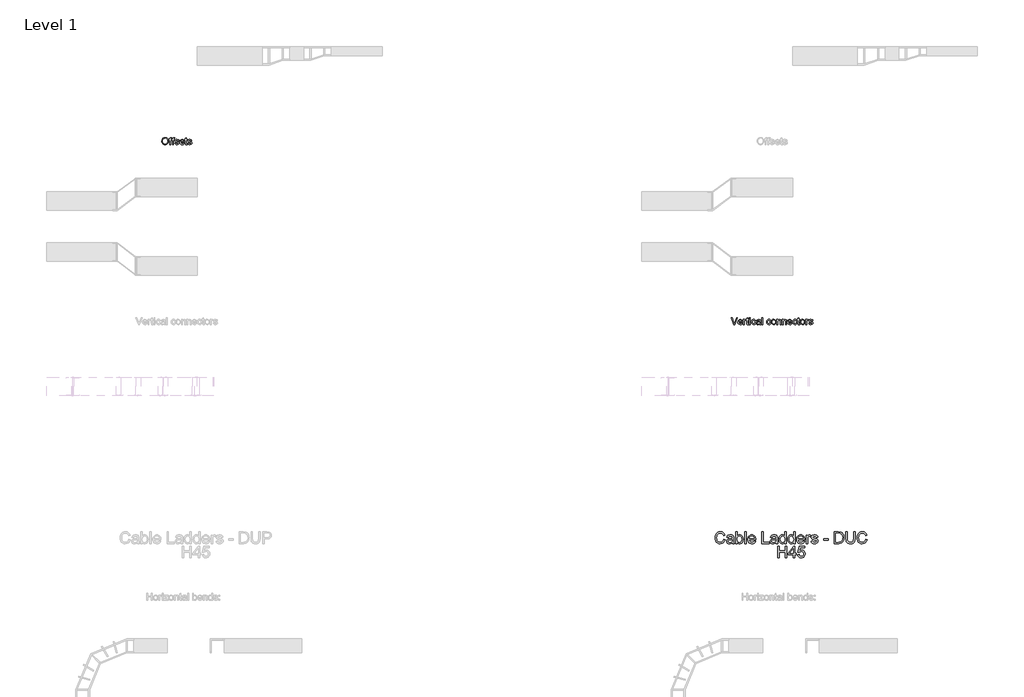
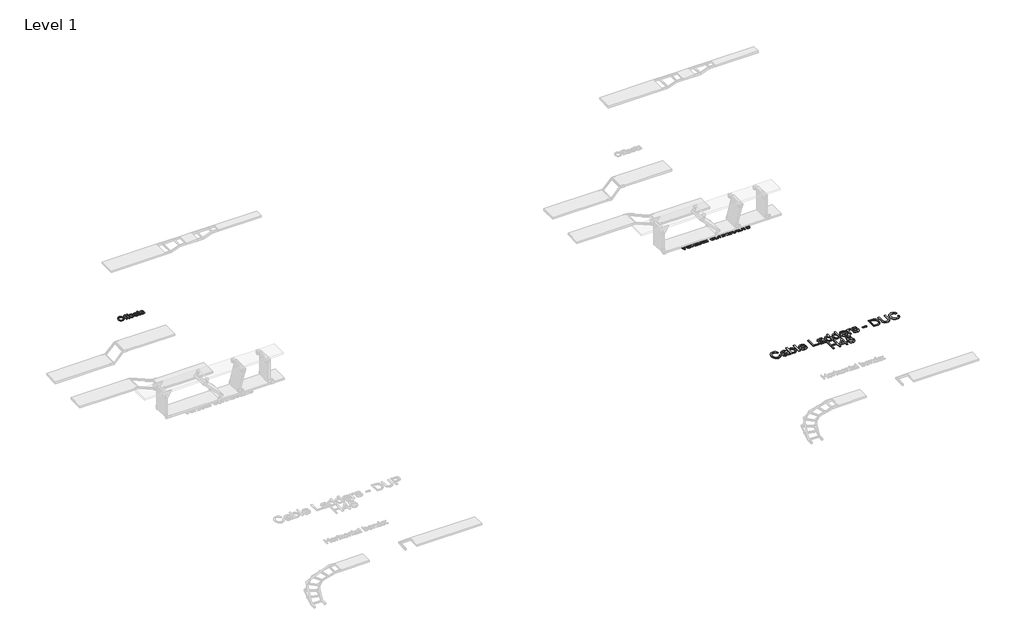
# One storey, part 63 of 106: 3 proxies.
"""IFC4 building model written with IfcOpenShell, lengths in millimetres."""

from ifc_helpers import new_model, si_unit, origin, origin_with_axes, place, context, project, spatial, polyline, outline, extrude, element, save

model = new_model("IFC4")

# Units and contexts
model_context = context("Model", 3, world=origin())
ifc_project = project(units=[si_unit("LENGTHUNIT", "METRE", prefix="MILLI")], contexts=[model_context])

# Site, building, storey
site = spatial("IfcSite", under=ifc_project)
building = spatial("IfcBuilding", under=site)
storey = spatial("IfcBuildingStorey", under=building, Name="Level 1", Elevation=0.0)

# Proxies
placement = place(None, origin())
element("IfcBuildingElementProxy", 1, Name="150mm Arial 2", ObjectType="150mm Arial 2", at=placement, inside=storey, context=model_context, shape_type="SweptSolid", body=[
    extrude(outline(polyline([(42592.661661, 48621.2033046), (42597.6832503, 48654.5242163), (42603.9602368, 48668.1427479), (42612.748018, 48679.7333301), (42635.7498397, 48695.5982411), (42664.5825911, 48700.8865448), (42684.3470513, 48698.4033413), (42702.0697664, 48690.9537309), (42716.7850462, 48679.0619454), (42727.5272005, 48663.2522167), (42734.0938941, 48644.2878998), (42736.282792, 48622.93235), (42733.978931, 48601.2916916), (42727.067348, 48582.0606603), (42715.9297206, 48566.2233404), (42700.9477263, 48554.7638163), (42683.3767625, 48547.8108466), (42664.4722265, 48545.49319), (42644.4042637, 48548.0545684), (42626.580381, 48555.7387036), (42611.9018894, 48567.8512183), (42601.2700997, 48583.6977352), (42594.8137707, 48601.9308866), (42592.661661, 48621.2033046)]), holes=[polyline([(42611.4972192, 48621.0193636), (42615.2634111, 48597.4473248), (42626.5619869, 48579.4854864), (42643.5443395, 48568.1179327), (42664.3618619, 48564.3287482), (42685.482887, 48568.1547209), (42702.4928307, 48579.6326392), (42713.708633, 48598.1463006), (42717.4472338, 48623.0795028), (42715.8469471, 48639.7537542), (42711.0460871, 48654.1655314), (42703.1688139, 48665.9515508), (42692.3392876, 48674.748529), (42679.2748783, 48680.2253722), (42664.6929557, 48682.0509866), (42644.4318548, 48678.533115), (42627.2057804, 48667.9795003), (42615.4243595, 48649.203723), (42611.4972192, 48621.0193636)])]), origin_with_axes(), (0.0, 0.0, 1.0), 15.0),
    extrude(outline(polyline([(42825.7516932, 48547.8476348), (42825.7516932, 48639.6709808), (42809.2705798, 48639.6709808), (42809.2705798, 48658.5065389), (42825.7516932, 48658.5065389), (42825.7516932, 48669.6533634), (42827.738256, 48685.3619246), (42837.3767642, 48696.5823254), (42856.3594752, 48700.8865448), (42873.5395644, 48698.8264056), (42870.7804494, 48681.1680698), (42859.9279305, 48682.0509866), (42848.0637362, 48678.9239897), (42844.5872513, 48667.2621304), (42844.5872513, 48658.5065389), (42865.7772543, 48658.5065389), (42865.7772543, 48639.6709808), (42844.5872513, 48639.6709808), (42844.5872513, 48547.8476348), (42825.7516932, 48547.8476348)])), origin_with_axes(), (0.0, 0.0, 1.0), 15.0),
    extrude(outline(polyline([(42764.5361292, 48547.8476348), (42764.5361292, 48639.6709808), (42748.0550158, 48639.6709808), (42748.0550158, 48658.5065389), (42764.5361292, 48658.5065389), (42764.5361292, 48669.6533634), (42766.522692, 48685.3619246), (42776.1612002, 48696.5823254), (42795.1439112, 48700.8865448), (42812.3240004, 48698.8264056), (42809.5648854, 48681.1680698), (42798.7123665, 48682.0509866), (42786.8481722, 48678.9239897), (42783.3716873, 48667.2621304), (42783.3716873, 48658.5065389), (42804.5616903, 48658.5065389), (42804.5616903, 48639.6709808), (42783.3716873, 48639.6709808), (42783.3716873, 48547.8476348), (42764.5361292, 48547.8476348)])), origin_with_axes(), (0.0, 0.0, 1.0), 15.0),
    extrude(outline(polyline([(42875.1950333, 48580.8098615), (42894.0305915, 48583.1643063), (42897.0012386, 48575.1076906), (42902.7493948, 48569.1847905), (42922.7253871, 48564.3287482), (42941.9288273, 48568.7801203), (42948.1828212, 48579.227969), (42946.6101257, 48584.028829), (42941.8920391, 48587.6892549), (42922.5046579, 48593.060332), (42894.1409561, 48602.275776), (42881.761727, 48613.0363243), (42877.5494781, 48628.2298507), (42880.9339925, 48642.2645488), (42890.1678305, 48652.988309), (42902.1423895, 48658.5617212), (42918.3475914, 48660.8609837), (42941.2666397, 48657.1637696), (42955.8347667, 48647.1573794), (42962.3094898, 48630.2532017), (42943.4739316, 48627.8987569), (42936.3922032, 48638.2914233), (42919.8191194, 48642.0254255), (42901.7929016, 48638.4569702), (42896.3850363, 48630.1428371), (42898.6291164, 48624.6613954), (42905.6556625, 48620.5043288), (42921.8792585, 48616.4944151), (42949.5255905, 48607.628459), (42962.3646721, 48597.5852805), (42967.0183793, 48581.2145317), (42961.5553317, 48563.188314), (42945.7915882, 48550.1101091), (42922.4678697, 48545.49319), (42903.4759617, 48547.7188761), (42889.6160076, 48554.3959343), (42880.3637754, 48565.4507882), (42875.1950333, 48580.8098615)])), origin_with_axes(), (0.0, 0.0, 1.0), 15.0),
    extrude(outline(polyline([(43065.6843304, 48580.8098615), (43084.1520066, 48578.4554168), (43077.497941, 48564.5402803), (43066.8799469, 48554.1384169), (43052.5371476, 48547.6544967), (43034.7086664, 48545.49319), (43012.6081556, 48549.2225937), (42995.6028104, 48560.4108049), (42984.7594886, 48578.3312566), (42981.145048, 48602.2573819), (42984.7962768, 48626.988249), (42995.7499632, 48645.4835163), (43012.5253821, 48657.0166168), (43033.6418087, 48660.8609837), (43054.1006461, 48657.0258139), (43070.4484023, 48645.5203045), (43081.1675639, 48627.0618254), (43084.7406178, 48602.3677465), (43084.6302532, 48597.2909749), (42999.9806061, 48597.2909749), (43003.2409603, 48583.1918975), (43010.8147309, 48572.8268223), (43021.7454246, 48566.4532667), (43035.0765484, 48564.3287482), (43053.5442246, 48568.2650855), (43065.6843304, 48580.8098615)]), holes=[polyline([(42999.9806061, 48616.1265331), (43065.9050596, 48616.1265331), (43063.3574768, 48626.0777411), (43058.3634787, 48633.1962577), (43047.3822012, 48639.8181336), (43033.5682323, 48642.0254255), (43020.8717049, 48640.2641905), (43010.3732725, 48634.9804853), (43003.0754134, 48626.7445272), (42999.9806061, 48616.1265331)])]), origin_with_axes(), (0.0, 0.0, 1.0), 15.0),
    extrude(outline(polyline([(43143.601737, 48563.556196), (43145.9561818, 48547.2958118), (43131.8663014, 48545.49319), (43116.0841638, 48548.620187), (43108.2114891, 48556.8239555), (43105.9306207, 48578.1978994), (43105.9306207, 48639.6709808), (43091.8039521, 48639.6709808), (43091.8039521, 48658.5065389), (43105.9306207, 48658.5065389), (43105.9306207, 48685.3987128), (43124.7661789, 48696.4719608), (43124.7661789, 48658.5065389), (43143.601737, 48658.5065389), (43143.601737, 48639.6709808), (43124.7661789, 48639.6709808), (43124.7661789, 48578.7497224), (43125.7594603, 48569.0376377), (43128.9784277, 48565.597941), (43135.3979685, 48564.3287482), (43143.601737, 48563.556196)])), origin_with_axes(), (0.0, 0.0, 1.0), 15.0),
    extrude(outline(polyline([(43155.3739609, 48580.8098615), (43174.209519, 48583.1643063), (43177.1801661, 48575.1076906), (43182.9283223, 48569.1847905), (43202.9043146, 48564.3287482), (43222.1077548, 48568.7801203), (43228.3617487, 48579.227969), (43226.7890532, 48584.028829), (43222.0709666, 48587.6892549), (43202.6835854, 48593.060332), (43174.3198836, 48602.275776), (43161.9406545, 48613.0363243), (43157.7284056, 48628.2298507), (43161.11292, 48642.2645488), (43170.3467581, 48652.988309), (43182.321317, 48658.5617212), (43198.5265189, 48660.8609837), (43221.4455672, 48657.1637696), (43236.0136942, 48647.1573794), (43242.4884173, 48630.2532017), (43223.6528592, 48627.8987569), (43216.5711308, 48638.2914233), (43199.9980469, 48642.0254255), (43181.9718291, 48638.4569702), (43176.5639638, 48630.1428371), (43178.808044, 48624.6613954), (43185.8345901, 48620.5043288), (43202.0581861, 48616.4944151), (43229.704518, 48607.628459), (43242.5435996, 48597.5852805), (43247.1973069, 48581.2145317), (43241.7342592, 48563.188314), (43225.9705157, 48550.1101091), (43202.6467972, 48545.49319), (43183.6548892, 48547.7188761), (43169.7949351, 48554.3959343), (43160.5427029, 48565.4507882), (43155.3739609, 48580.8098615)])), origin_with_axes(), (0.0, 0.0, 1.0), 15.0),
])
element("IfcBuildingElementProxy", 2, Name="150mm Arial 2", ObjectType="150mm Arial 2", at=placement, inside=storey, context=model_context, shape_type="SweptSolid", body=[
    extrude(outline(polyline([(54988.5897513, 44647.8476348), (54928.624986, 44798.5321), (54948.7849194, 44798.5321), (54988.920845, 44689.9701232), (54997.0510371, 44665.5059705), (55005.0708646, 44689.9701232), (55045.3171549, 44798.5321), (55065.4770882, 44798.5321), (55008.0507088, 44647.8476348), (54988.5897513, 44647.8476348)])), origin_with_axes(), (0.0, 0.0, 1.0), 15.0),
    extrude(outline(polyline([(55158.1097746, 44680.8098615), (55176.5774508, 44678.4554168), (55169.9233852, 44664.5402803), (55159.3053911, 44654.1384169), (55144.9625918, 44647.6544967), (55127.1341106, 44645.49319), (55105.0335998, 44649.2225937), (55088.0282546, 44660.4108049), (55077.1849327, 44678.3312566), (55073.5704921, 44702.2573819), (55077.2217209, 44726.988249), (55088.1754073, 44745.4835163), (55104.9508263, 44757.0166168), (55126.0672529, 44760.8609837), (55146.5260903, 44757.0258139), (55162.8738465, 44745.5203045), (55173.5930081, 44727.0618254), (55177.166062, 44702.3677465), (55177.0556974, 44697.2909749), (55092.4060503, 44697.2909749), (55095.6664045, 44683.1918975), (55103.2401751, 44672.8268223), (55114.1708688, 44666.4532667), (55127.5019926, 44664.3287482), (55145.9696688, 44668.2650855), (55158.1097746, 44680.8098615)]), holes=[polyline([(55092.4060503, 44716.1265331), (55158.3305038, 44716.1265331), (55155.782921, 44726.0777411), (55150.7889229, 44733.1962577), (55139.8076454, 44739.8181336), (55125.9936765, 44742.0254255), (55113.2971491, 44740.2641905), (55102.7987167, 44734.9804853), (55095.5008576, 44726.7445272), (55092.4060503, 44716.1265331)])]), origin_with_axes(), (0.0, 0.0, 1.0), 15.0),
    extrude(outline(polyline([(55306.6605243, 44663.556196), (55309.0149691, 44647.2958118), (55294.9250886, 44645.49319), (55279.142951, 44648.620187), (55271.2702763, 44656.8239555), (55268.989408, 44678.1978994), (55268.989408, 44739.6709808), (55254.8627394, 44739.6709808), (55254.8627394, 44755.0484482), (55254.8627394, 44758.5065389), (55268.989408, 44758.5065389), (55268.989408, 44785.3987128), (55287.8249661, 44796.4719608), (55287.8249661, 44758.5065389), (55306.6605243, 44758.5065389), (55306.6605243, 44739.6709808), (55287.8249661, 44739.6709808), (55287.8249661, 44678.7497224), (55288.8182475, 44669.0376377), (55292.037215, 44665.597941), (55298.4567558, 44664.3287482), (55306.6605243, 44663.556196)])), origin_with_axes(), (0.0, 0.0, 1.0), 15.0),
    extrude(outline(polyline([(55196.0016201, 44647.8476348), (55196.0016201, 44758.5065389), (55212.4827335, 44758.5065389), (55212.4827335, 44742.1357901), (55224.181381, 44757.2189519), (55235.9536048, 44760.8609837), (55254.8627394, 44755.0484482), (55248.5719572, 44738.1626646), (55235.3282054, 44742.0254255), (55224.6780217, 44738.3098174), (55217.8905988, 44728.0091215), (55214.8371783, 44706.0097782), (55214.8371783, 44647.8476348), (55196.0016201, 44647.8476348)])), origin_with_axes(), (0.0, 0.0, 1.0), 15.0),
    extrude(outline(polyline([(55325.4960824, 44779.6965419), (55325.4960824, 44798.5321), (55344.3316406, 44798.5321), (55344.3316406, 44779.6965419), (55325.4960824, 44779.6965419)])), origin_with_axes(), (0.0, 0.0, 1.0), 15.0),
    extrude(outline(polyline([(55325.4960824, 44647.8476348), (55325.4960824, 44758.5065389), (55344.3316406, 44758.5065389), (55344.3316406, 44647.8476348), (55325.4960824, 44647.8476348)])), origin_with_axes(), (0.0, 0.0, 1.0), 15.0),
    extrude(outline(polyline([(55443.2183209, 44687.8731959), (55462.053879, 44685.5187511), (55456.8023636, 44668.7663247), (55446.933929, 44656.1065856), (55433.3774775, 44648.1465389), (55417.061911, 44645.49319), (55397.0261379, 44649.1950026), (55381.3589634, 44660.3004403), (55371.2468071, 44678.3220596), (55367.8760883, 44702.7724167), (55369.3154266, 44719.5340401), (55373.6334415, 44734.0607803), (55380.8991109, 44745.7916175), (55391.1814127, 44754.1655314), (55403.4824669, 44759.1871206), (55416.8043936, 44760.8609837), (55432.7198885, 44758.5617212), (55445.444007, 44751.6639338), (55454.572079, 44740.5355035), (55459.6994343, 44725.5443122), (55440.8638761, 44723.1898674), (55432.1266787, 44737.2981419), (55416.9515464, 44742.0254255), (55404.7792509, 44739.6985719), (55395.11775, 44732.7180111), (55388.8131723, 44720.7066639), (55386.7116464, 44703.2874515), (55388.7671871, 44685.6337142), (55394.933809, 44673.5809803), (55404.420566, 44666.6418062), (55416.4365116, 44664.3287482), (55426.189983, 44665.772685), (55434.1868179, 44670.1044955), (55440.003952, 44677.4345442), (55443.2183209, 44687.8731959)])), origin_with_axes(), (0.0, 0.0, 1.0), 15.0),
    extrude(outline(polyline([(55549.1683355, 44661.9743034), (55530.9029944, 44649.2087982), (55510.724667, 44645.49319), (55494.9839161, 44647.7280731), (55483.3726407, 44654.4327225), (55476.2127373, 44664.6138567), (55473.8261029, 44677.2781944), (55477.4313464, 44692.1774152), (55486.9043078, 44702.9931459), (55500.0928773, 44709.1735634), (55516.3900497, 44712.0062547), (55549.0579709, 44718.4809779), (55549.1683355, 44722.6748326), (55547.8715515, 44731.0809362), (55543.9811994, 44736.580772), (55535.2807902, 44740.6642622), (55523.1590784, 44742.0254255), (55504.1027911, 44738.4017879), (55495.0161058, 44725.5443122), (55476.1805477, 44727.8987569), (55484.3291339, 44746.2928567), (55500.7366708, 44757.0717991), (55525.5870996, 44760.8609837), (55548.4141774, 44757.5132575), (55561.3084413, 44749.107154), (55567.0841887, 44736.3232546), (55568.0038937, 44719.8421412), (55568.0038937, 44696.4080581), (55568.9603868, 44663.6849547), (55572.7127832, 44647.8476348), (55553.877225, 44647.8476348), (55549.1683355, 44661.9743034)]), holes=[polyline([(55549.1683355, 44699.6454197), (55518.7812827, 44693.8696724), (55502.5760808, 44690.8162518), (55495.236835, 44685.8498449), (55492.661661, 44678.6025696), (55498.2718615, 44668.4122383), (55514.7345808, 44664.3287482), (55533.7908681, 44668.8353026), (55546.0781267, 44679.7430038), (55549.0579709, 44694.3111308), (55549.1683355, 44699.6454197)])]), origin_with_axes(), (0.0, 0.0, 1.0), 15.0),
    extrude(outline(polyline([(55593.9027861, 44647.8476348), (55593.9027861, 44798.5321), (55612.7383443, 44798.5321), (55612.7383443, 44647.8476348), (55593.9027861, 44647.8476348)])), origin_with_axes(), (0.0, 0.0, 1.0), 15.0),
    extrude(outline(polyline([(55770.4861438, 44687.8731959), (55789.321702, 44685.5187511), (55784.0701865, 44668.7663247), (55774.201752, 44656.1065856), (55760.6453004, 44648.1465389), (55744.3297339, 44645.49319), (55724.2939608, 44649.1950026), (55708.6267863, 44660.3004403), (55698.51463, 44678.3220596), (55695.1439112, 44702.7724167), (55696.5832495, 44719.5340401), (55700.9012644, 44734.0607803), (55708.1669338, 44745.7916175), (55718.4492356, 44754.1655314), (55730.7502898, 44759.1871206), (55744.0722165, 44760.8609837), (55759.9877114, 44758.5617212), (55772.7118299, 44751.6639338), (55781.8399019, 44740.5355035), (55786.9672572, 44725.5443122), (55768.131699, 44723.1898674), (55759.3945016, 44737.2981419), (55744.2193693, 44742.0254255), (55732.0470738, 44739.6985719), (55722.3855729, 44732.7180111), (55716.0809952, 44720.7066639), (55713.9794693, 44703.2874515), (55716.03501, 44685.6337142), (55722.2016319, 44673.5809803), (55731.6883889, 44666.6418062), (55743.7043346, 44664.3287482), (55753.457806, 44665.772685), (55761.4546408, 44670.1044955), (55767.2717749, 44677.4345442), (55770.4861438, 44687.8731959)])), origin_with_axes(), (0.0, 0.0, 1.0), 15.0),
    extrude(outline(polyline([(55801.0939258, 44703.1770869), (55805.1682189, 44729.8577286), (55817.3910982, 44748.6105133), (55832.4926541, 44757.7983661), (55850.5740542, 44760.8609837), (55870.361507, 44757.13158), (55886.1666372, 44745.9433688), (55896.5271139, 44728.179267), (55899.9806061, 44704.7221912), (55898.4538958, 44685.693495), (55893.873765, 44671.2081415), (55886.3735708, 44660.3602211), (55876.0866705, 44652.2438246), (55863.8683898, 44647.1808487), (55850.5740542, 44645.49319), (55830.547478, 44649.2087982), (55814.7607419, 44660.3556226), (55804.5106298, 44678.492205), (55801.0939258, 44703.1770869)]), holes=[polyline([(55819.929484, 44703.2138751), (55822.1091848, 44686.1671431), (55828.6482872, 44674.0224387), (55838.4891306, 44666.7521708), (55850.5740542, 44664.3287482), (55862.6037954, 44666.7659664), (55872.4262447, 44674.077621), (55878.9653471, 44686.3832738), (55881.145048, 44703.8024862), (55878.9515516, 44720.3525775), (55872.3710624, 44732.331735), (55862.5348175, 44739.6020029), (55850.5740542, 44742.0254255), (55838.4891306, 44739.6112), (55828.6482872, 44732.3685232), (55822.1091848, 44720.25141), (55819.929484, 44703.2138751)])]), origin_with_axes(), (0.0, 0.0, 1.0), 15.0),
    extrude(outline(polyline([(55921.170609, 44647.8476348), (55921.170609, 44758.5065389), (55940.0061672, 44758.5065389), (55940.0061672, 44743.0554951), (55954.4087473, 44756.4096116), (55974.0720399, 44760.8609837), (55991.8591344, 44757.2741342), (56003.9992402, 44747.8563552), (56009.6462289, 44734.0055981), (56010.6395103, 44715.7954393), (56010.6395103, 44647.8476348), (55991.8039521, 44647.8476348), (55991.8039521, 44713.2570535), (55989.6334483, 44729.9221079), (55981.9631087, 44738.7328817), (55969.0320566, 44742.0254255), (55958.0001953, 44740.1768185), (55948.5962118, 44734.6309974), (55942.1536783, 44723.9164343), (55940.0061672, 44706.5616012), (55940.0061672, 44647.8476348), (55921.170609, 44647.8476348)])), origin_with_axes(), (0.0, 0.0, 1.0), 15.0),
    extrude(outline(polyline([(56036.5384027, 44647.8476348), (56036.5384027, 44758.5065389), (56055.3739609, 44758.5065389), (56055.3739609, 44743.0554951), (56069.776541, 44756.4096116), (56089.4398336, 44760.8609837), (56107.2269281, 44757.2741342), (56119.3670339, 44747.8563552), (56125.0140226, 44734.0055981), (56126.0073039, 44715.7954393), (56126.0073039, 44647.8476348), (56107.1717458, 44647.8476348), (56107.1717458, 44713.2570535), (56105.001242, 44729.9221079), (56097.3309024, 44738.7328817), (56084.3998503, 44742.0254255), (56073.367989, 44740.1768185), (56063.9640055, 44734.6309974), (56057.521472, 44723.9164343), (56055.3739609, 44706.5616012), (56055.3739609, 44647.8476348), (56036.5384027, 44647.8476348)])), origin_with_axes(), (0.0, 0.0, 1.0), 15.0),
    extrude(outline(polyline([(56229.3821446, 44680.8098615), (56247.8498207, 44678.4554168), (56241.1957552, 44664.5402803), (56230.5777611, 44654.1384169), (56216.2349618, 44647.6544967), (56198.4064806, 44645.49319), (56176.3059697, 44649.2225937), (56159.3006245, 44660.4108049), (56148.4573027, 44678.3312566), (56144.8428621, 44702.2573819), (56148.4940909, 44726.988249), (56159.4477773, 44745.4835163), (56176.2231963, 44757.0166168), (56197.3396228, 44760.8609837), (56217.7984603, 44757.0258139), (56234.1462164, 44745.5203045), (56244.8653781, 44727.0618254), (56248.4384319, 44702.3677465), (56248.3280673, 44697.2909749), (56163.6784202, 44697.2909749), (56166.9387744, 44683.1918975), (56174.512545, 44672.8268223), (56185.4432388, 44666.4532667), (56198.7743626, 44664.3287482), (56217.2420387, 44668.2650855), (56229.3821446, 44680.8098615)]), holes=[polyline([(56163.6784202, 44716.1265331), (56229.6028738, 44716.1265331), (56227.055291, 44726.0777411), (56222.0612929, 44733.1962577), (56211.0800153, 44739.8181336), (56197.2660464, 44742.0254255), (56184.569519, 44740.2641905), (56174.0710866, 44734.9804853), (56166.7732275, 44726.7445272), (56163.6784202, 44716.1265331)])]), origin_with_axes(), (0.0, 0.0, 1.0), 15.0),
    extrude(outline(polyline([(56337.9073332, 44687.8731959), (56356.7428913, 44685.5187511), (56351.4913758, 44668.7663247), (56341.6229413, 44656.1065856), (56328.0664898, 44648.1465389), (56311.7509233, 44645.49319), (56291.7151501, 44649.1950026), (56276.0479757, 44660.3004403), (56265.9358193, 44678.3220596), (56262.5651006, 44702.7724167), (56264.0044389, 44719.5340401), (56268.3224538, 44734.0607803), (56275.5881232, 44745.7916175), (56285.8704249, 44754.1655314), (56298.1714792, 44759.1871206), (56311.4934059, 44760.8609837), (56327.4089007, 44758.5617212), (56340.1330192, 44751.6639338), (56349.2610912, 44740.5355035), (56354.3884465, 44725.5443122), (56335.5528884, 44723.1898674), (56326.815691, 44737.2981419), (56311.6405587, 44742.0254255), (56299.4682632, 44739.6985719), (56289.8067623, 44732.7180111), (56283.5021846, 44720.7066639), (56281.4006587, 44703.2874515), (56283.4561994, 44685.6337142), (56289.6228213, 44673.5809803), (56299.1095782, 44666.6418062), (56311.1255239, 44664.3287482), (56320.8789953, 44665.772685), (56328.8758302, 44670.1044955), (56334.6929642, 44677.4345442), (56337.9073332, 44687.8731959)])), origin_with_axes(), (0.0, 0.0, 1.0), 15.0),
    extrude(outline(polyline([(56413.2495658, 44663.556196), (56415.6040105, 44647.2958118), (56401.5141301, 44645.49319), (56385.7319925, 44648.620187), (56377.8593178, 44656.8239555), (56375.5784495, 44678.1978994), (56375.5784495, 44739.6709808), (56361.4517809, 44739.6709808), (56361.4517809, 44758.5065389), (56375.5784495, 44758.5065389), (56375.5784495, 44785.3987128), (56394.4140076, 44796.4719608), (56394.4140076, 44758.5065389), (56413.2495658, 44758.5065389), (56413.2495658, 44739.6709808), (56394.4140076, 44739.6709808), (56394.4140076, 44678.7497224), (56395.407289, 44669.0376377), (56398.6262565, 44665.597941), (56405.0457973, 44664.3287482), (56413.2495658, 44663.556196)])), origin_with_axes(), (0.0, 0.0, 1.0), 15.0),
    extrude(outline(polyline([(56427.3762344, 44703.1770869), (56431.4505275, 44729.8577286), (56443.6734068, 44748.6105133), (56458.7749627, 44757.7983661), (56476.8563627, 44760.8609837), (56496.6438156, 44757.13158), (56512.4489458, 44745.9433688), (56522.8094225, 44728.179267), (56526.2629147, 44704.7221912), (56524.7362044, 44685.693495), (56520.1560736, 44671.2081415), (56512.6558794, 44660.3602211), (56502.3689791, 44652.2438246), (56490.1506983, 44647.1808487), (56476.8563627, 44645.49319), (56456.8297866, 44649.2087982), (56441.0430505, 44660.3556226), (56430.7929384, 44678.492205), (56427.3762344, 44703.1770869)]), holes=[polyline([(56446.2117925, 44703.2138751), (56448.3914934, 44686.1671431), (56454.9305958, 44674.0224387), (56464.7714392, 44666.7521708), (56476.8563627, 44664.3287482), (56488.886104, 44666.7659664), (56498.7085533, 44674.077621), (56505.2476557, 44686.3832738), (56507.4273565, 44703.8024862), (56505.2338601, 44720.3525775), (56498.653371, 44732.331735), (56488.8171261, 44739.6020029), (56476.8563627, 44742.0254255), (56464.7714392, 44739.6112), (56454.9305958, 44732.3685232), (56448.3914934, 44720.25141), (56446.2117925, 44703.2138751)])]), origin_with_axes(), (0.0, 0.0, 1.0), 15.0),
    extrude(outline(polyline([(56547.4529176, 44647.8476348), (56547.4529176, 44758.5065389), (56563.934031, 44758.5065389), (56563.934031, 44742.1357901), (56575.6326784, 44757.2189519), (56587.4049023, 44760.8609837), (56606.3140368, 44755.0484482), (56600.0232547, 44738.1626646), (56586.7795029, 44742.0254255), (56576.1293191, 44738.3098174), (56569.3418963, 44728.0091215), (56566.2884758, 44706.0097782), (56566.2884758, 44647.8476348), (56547.4529176, 44647.8476348)])), origin_with_axes(), (0.0, 0.0, 1.0), 15.0),
    extrude(outline(polyline([(56611.0229264, 44680.8098615), (56629.8584845, 44683.1643063), (56632.8291316, 44675.1076906), (56638.5772878, 44669.1847905), (56658.5532802, 44664.3287482), (56677.7567203, 44668.7801203), (56684.0107142, 44679.227969), (56682.4380187, 44684.028829), (56677.7199321, 44687.6892549), (56658.332551, 44693.060332), (56629.9688491, 44702.275776), (56617.58962, 44713.0363243), (56613.3773712, 44728.2298507), (56616.7618855, 44742.2645488), (56625.9957236, 44752.988309), (56637.9702825, 44758.5617212), (56654.1754844, 44760.8609837), (56677.0945327, 44757.1637696), (56691.6626597, 44747.1573794), (56698.1373828, 44730.2532017), (56679.3018247, 44727.8987569), (56672.2200963, 44738.2914233), (56655.6470124, 44742.0254255), (56637.6207946, 44738.4569702), (56632.2129293, 44730.1428371), (56634.4570095, 44724.6613954), (56641.4835556, 44720.5043288), (56657.7071516, 44716.4944151), (56685.3534835, 44707.628459), (56698.1925651, 44697.5852805), (56702.8462724, 44681.2145317), (56697.3832248, 44663.188314), (56681.6194813, 44650.1101091), (56658.2957628, 44645.49319), (56639.3038548, 44647.7188761), (56625.4439006, 44654.3959343), (56616.1916684, 44665.4507882), (56611.0229264, 44680.8098615)])), origin_with_axes(), (0.0, 0.0, 1.0), 15.0),
])
element("IfcBuildingElementProxy", 3, Name="250mm Arial 3", ObjectType="250mm Arial 3", at=placement, inside=storey, context=model_context, shape_type="SweptSolid", body=[
    extrude(outline(polyline([(54767.6684959, 39992.4106539), (54799.0610929, 39984.31725), (54784.5757393, 39947.7359841), (54761.8436977, 39921.01089), (54731.9839424, 39904.6631338), (54696.1154479, 39899.2138818), (54659.7027946, 39903.3372258), (54630.7857369, 39915.7072579), (54608.6208467, 39935.8947824), (54592.4646957, 39963.4706036), (54582.6008597, 39995.8902044), (54579.3129144, 40030.6090677), (54583.0300554, 40067.2286547), (54594.1814784, 40098.8511778), (54612.1847035, 40124.472626), (54636.457251, 40143.0889877), (54665.2440171, 40154.4243517), (54696.7898982, 40158.2028064), (54731.2098574, 40153.3130415), (54759.6670625, 40138.643747), (54781.2724656, 40115.0992993), (54795.1370182, 40083.584075), (54763.7444213, 40076.1038078), (54752.8612456, 40098.9967978), (54737.9926817, 40114.7007605), (54718.9547884, 40123.7828472), (54695.5636249, 40126.8102095), (54668.6009403, 40123.4532863), (54646.4513785, 40113.3825166), (54629.6437699, 40097.6555613), (54618.7069447, 40077.3300811), (54612.7058697, 40054.3527848), (54610.7055113, 40030.6703814), (54613.0737517, 40001.6690174), (54620.1784727, 39976.5917281), (54632.2879217, 39956.3965394), (54649.670346, 39942.0414774), (54670.5093282, 39933.4652284), (54692.9884509, 39930.6064787), (54719.1923789, 39934.4998965), (54741.0277081, 39946.1801498), (54757.51342, 39965.5246114), (54767.6684959, 39992.4106539)])), origin_with_axes(), (0.0, 0.0, 1.0), 15.0),
    extrude(outline(polyline([(54956.0240775, 39926.6824041), (54941.025222, 39913.8218627), (54925.5818424, 39905.406562), (54909.3413851, 39900.7620518), (54891.9512966, 39899.2138818), (54865.7167119, 39902.938687), (54846.3645861, 39914.1131026), (54834.4314139, 39931.0816596), (54830.4536898, 39952.1888891), (54831.9558746, 39965.2027147), (54836.462429, 39977.0209238), (54852.250698, 39995.0471415), (54874.2316472, 40005.3478374), (54901.3936012, 40010.0689897), (54955.8401365, 40020.8601949), (54956.0240775, 40027.8499528), (54953.8627708, 40041.8601254), (54947.3788506, 40051.0265185), (54932.8781686, 40057.8323354), (54912.6753157, 40060.100941), (54893.9746476, 40058.591092), (54880.9148368, 40054.0615449), (54872.0090268, 40045.6845653), (54865.7703613, 40032.6324187), (54834.3777644, 40036.5564933), (54839.8270165, 40053.7243198), (54847.9587414, 40067.2133262), (54859.5316958, 40077.5293505), (54875.3046364, 40085.1782303), (54894.5954485, 40089.914711), (54916.7220177, 40091.4935379), (54937.9442103, 40090.098652), (54954.7671473, 40085.9139943), (54967.4514119, 40079.6216794), (54976.2575872, 40071.9038217), (54985.8838327, 40050.5973228), (54987.4166744, 40023.1288005), (54987.4166744, 39984.0719953), (54989.0108297, 39929.5334895), (54995.2648236, 39903.1379564), (54963.8722267, 39903.1379564), (54956.0240775, 39926.6824041)]), holes=[polyline([(54956.0240775, 39989.4675979), (54905.3789895, 39979.8413524), (54878.3703197, 39974.7523181), (54866.1382433, 39966.4749732), (54861.8462867, 39954.3961811), (54864.1838702, 39945.0611754), (54871.1966208, 39937.4122956), (54882.7312541, 39932.3079329), (54898.6344862, 39930.6064787), (54915.4957443, 39932.4842097), (54930.3949651, 39938.1174028), (54942.4737573, 39946.4177403), (54950.8737295, 39956.2969047), (54954.5985347, 39966.4749732), (54955.8401365, 39980.5771164), (54956.0240775, 39989.4675979)])]), origin_with_axes(), (0.0, 0.0, 1.0), 15.0),
    extrude(outline(polyline([(55061.9740921, 39903.1379564), (55030.5814952, 39903.1379564), (55030.5814952, 40154.2787318), (55061.9740921, 40154.2787318), (55061.9740921, 40061.1432733), (55072.2977806, 40074.4215141), (55083.9550413, 40083.9059718), (55096.9458743, 40089.5966464), (55111.2702794, 40091.4935379), (55127.4417588, 40089.7844195), (55142.72419, 40084.6570642), (55156.2438533, 40076.4333687), (55167.127029, 40065.4352299), (55182.1182203, 40035.5448178), (55187.5444798, 39998.1128248), (55181.9266151, 39956.2049342), (55174.9042843, 39939.2746982), (55165.0730212, 39925.0269351), (55153.2720566, 39913.7337243), (55140.3406213, 39905.6671451), (55126.2787152, 39900.8271976), (55111.0863384, 39899.2138818), (55096.2905844, 39901.2947143), (55083.1732921, 39907.5372119), (55071.7344613, 39917.9413746), (55061.9740921, 39932.5072023), (55061.9740921, 39903.1379564)]), holes=[polyline([(55061.9740921, 39996.6412968), (55064.1200704, 39970.4603615), (55070.5580053, 39952.7407121), (55087.0053962, 39936.140037), (55108.3885371, 39930.6064787), (55126.5067254, 39934.6838375), (55141.988426, 39946.9159138), (55152.6110186, 39967.2260656), (55156.1518828, 39995.5376509), (55152.7566386, 40024.2631033), (55142.5709059, 40044.3433289), (55127.5720503, 40056.161538), (55109.7374378, 40060.100941), (55091.6192495, 40056.0235822), (55076.1375489, 40043.7915059), (55065.5149563, 40023.8492361), (55061.9740921, 39996.6412968)])]), origin_with_axes(), (0.0, 0.0, 1.0), 15.0),
    extrude(outline(polyline([(55222.8611513, 39903.1379564), (55222.8611513, 40154.2787318), (55254.2537482, 40154.2787318), (55254.2537482, 39903.1379564), (55222.8611513, 39903.1379564)])), origin_with_axes(), (0.0, 0.0, 1.0), 15.0),
    extrude(outline(polyline([(55430.4692239, 39958.075001), (55461.2486842, 39954.1509264), (55450.1585749, 39930.9590323), (55432.4619181, 39913.6225933), (55408.5572526, 39902.8160597), (55378.8431173, 39899.2138818), (55359.364532, 39900.7678), (55342.0089325, 39905.4295547), (55326.7763186, 39913.1991458), (55313.6666905, 39924.0765733), (55303.124572, 39937.759101), (55295.5944874, 39953.9439928), (55291.0764367, 39972.6312485), (55289.5704198, 39993.8208682), (55291.0917651, 40015.7290074), (55295.6558011, 40035.0389801), (55303.2625278, 40051.7507861), (55313.9119451, 40065.8644256), (55326.9870844, 40077.0771622), (55341.8709767, 40085.0862598), (55358.5636223, 40089.8917184), (55377.065021, 40091.4935379), (55394.9705274, 40089.8955505), (55411.1630834, 40085.1015883), (55425.6426888, 40077.1116512), (55438.4093436, 40065.9257393), (55448.8307508, 40051.8427566), (55456.274613, 40035.1616074), (55460.7409304, 40015.8822916), (55462.2297028, 39994.0048092), (55462.0457618, 39985.5435233), (55320.9630167, 39985.5435233), (55326.3969403, 39962.0450609), (55339.0198913, 39944.7699355), (55357.2377143, 39934.1473429), (55379.4562539, 39930.6064787), (55396.1642279, 39932.2466193), (55410.2357142, 39937.1670409), (55421.6707129, 39945.6743121), (55430.4692239, 39958.075001)]), holes=[polyline([(55320.9630167, 40016.9361202), (55430.8371059, 40016.9361202), (55426.5911346, 40033.5214669), (55418.2678044, 40045.3856612), (55399.9656752, 40056.4221211), (55376.9423936, 40060.100941), (55355.7815147, 40057.1655493), (55338.2841273, 40048.359374), (55326.1210288, 40034.632777), (55320.9630167, 40016.9361202)])]), origin_with_axes(), (0.0, 0.0, 1.0), 15.0),
    extrude(outline(polyline([(55595.6482398, 39903.1379564), (55595.6482398, 40154.2787318), (55627.0408367, 40154.2787318), (55627.0408367, 39934.5305533), (55752.6112244, 39934.5305533), (55752.6112244, 39903.1379564), (55595.6482398, 39903.1379564)])), origin_with_axes(), (0.0, 0.0, 1.0), 15.0),
    extrude(outline(polyline([(55901.7260597, 39926.6824041), (55886.7272042, 39913.8218627), (55871.2838246, 39905.406562), (55855.0433674, 39900.7620518), (55837.6532789, 39899.2138818), (55811.4186941, 39902.938687), (55792.0665683, 39914.1131026), (55780.1333961, 39931.0816596), (55776.1556721, 39952.1888891), (55777.6578569, 39965.2027147), (55782.1644113, 39977.0209238), (55797.9526803, 39995.0471415), (55819.9336295, 40005.3478374), (55847.0955835, 40010.0689897), (55901.5421187, 40020.8601949), (55901.7260597, 40027.8499528), (55899.564753, 40041.8601254), (55893.0808329, 40051.0265185), (55878.5801509, 40057.8323354), (55858.377298, 40060.100941), (55839.6766299, 40058.591092), (55826.6168191, 40054.0615449), (55817.7110091, 40045.6845653), (55811.4723436, 40032.6324187), (55780.0797467, 40036.5564933), (55785.5289987, 40053.7243198), (55793.6607237, 40067.2133262), (55805.2336781, 40077.5293505), (55821.0066186, 40085.1782303), (55840.2974308, 40089.914711), (55862.4239999, 40091.4935379), (55883.6461925, 40090.098652), (55900.4691296, 40085.9139943), (55913.1533942, 40079.6216794), (55921.9595695, 40071.9038217), (55931.585815, 40050.5973228), (55933.1186567, 40023.1288005), (55933.1186567, 39984.0719953), (55934.712812, 39929.5334895), (55940.9668059, 39903.1379564), (55909.574209, 39903.1379564), (55901.7260597, 39926.6824041)]), holes=[polyline([(55901.7260597, 39989.4675979), (55851.0809717, 39979.8413524), (55824.0723019, 39974.7523181), (55811.8402256, 39966.4749732), (55807.548269, 39954.3961811), (55809.8858525, 39945.0611754), (55816.898603, 39937.4122956), (55828.4332364, 39932.3079329), (55844.3364685, 39930.6064787), (55861.1977266, 39932.4842097), (55876.0969474, 39938.1174028), (55888.1757396, 39946.4177403), (55896.5757118, 39956.2969047), (55900.300517, 39966.4749732), (55901.5421187, 39980.5771164), (55901.7260597, 39989.4675979)])]), origin_with_axes(), (0.0, 0.0, 1.0), 15.0),
    extrude(outline(polyline([(56090.0816413, 39903.1379564), (56090.0816413, 39932.752457), (56080.6891541, 39918.0793303), (56069.311637, 39907.5985256), (56055.9490899, 39901.3100427), (56040.6015129, 39899.2138818), (56020.3066895, 39902.2489082), (56001.7286488, 39911.3539876), (55986.0016935, 39925.8929906), (55974.2601265, 39945.229788), (55966.9484718, 39968.5826305), (55964.5112536, 39995.1697689), (55966.7568666, 40021.4273463), (55973.4937056, 40045.1404065), (55984.7141065, 40064.960049), (56000.4104049, 40079.5373731), (56019.3946487, 40088.5044967), (56040.4788856, 40091.4935379), (56055.8379589, 40089.3552238), (56069.4189359, 40082.9402815), (56080.9305766, 40073.1071024), (56090.0816413, 40060.7140777), (56090.0816413, 40154.2787318), (56121.4742382, 40154.2787318), (56121.4742382, 39903.1379564), (56090.0816413, 39903.1379564)]), holes=[polyline([(55995.9038505, 39995.2923962), (55999.4447147, 39966.8965047), (56010.0673073, 39946.701316), (56025.5030227, 39934.630188), (56043.4832552, 39930.6064787), (56061.4558235, 39934.446247), (56076.5006643, 39945.965552), (56086.686397, 39965.3789915), (56090.0816413, 39992.9011632), (56086.6250834, 40022.9908447), (56076.2554096, 40043.8528196), (56060.8273584, 40056.0389106), (56042.1956682, 40060.100941), (56024.0314947, 40056.199859), (56009.1476023, 40044.496613), (55999.2147885, 40024.3933948), (55995.9038505, 39995.2923962)])]), origin_with_axes(), (0.0, 0.0, 1.0), 15.0),
    extrude(outline(polyline([(56282.3612974, 39903.1379564), (56282.3612974, 39932.752457), (56272.9688102, 39918.0793303), (56261.5912931, 39907.5985256), (56248.2287461, 39901.3100427), (56232.8811691, 39899.2138818), (56212.5863457, 39902.2489082), (56194.0083049, 39911.3539876), (56178.2813496, 39925.8929906), (56166.5397826, 39945.229788), (56159.2281279, 39968.5826305), (56156.7909097, 39995.1697689), (56159.0365227, 40021.4273463), (56165.7733618, 40045.1404065), (56176.9937626, 40064.960049), (56192.6900611, 40079.5373731), (56211.6743049, 40088.5044967), (56232.7585417, 40091.4935379), (56248.117615, 40089.3552238), (56261.698592, 40082.9402815), (56273.2102328, 40073.1071024), (56282.3612974, 40060.7140777), (56282.3612974, 40154.2787318), (56313.7538943, 40154.2787318), (56313.7538943, 39903.1379564), (56282.3612974, 39903.1379564)]), holes=[polyline([(56188.1835067, 39995.2923962), (56191.7243709, 39966.8965047), (56202.3469635, 39946.701316), (56217.7826788, 39934.630188), (56235.7629114, 39930.6064787), (56253.7354797, 39934.446247), (56268.7803204, 39945.965552), (56278.9660532, 39965.3789915), (56282.3612974, 39992.9011632), (56278.9047395, 40022.9908447), (56268.5350658, 40043.8528196), (56253.1070146, 40056.0389106), (56234.4753244, 40060.100941), (56216.3111509, 40056.199859), (56201.4272585, 40044.496613), (56191.4944446, 40024.3933948), (56188.1835067, 39995.2923962)])]), origin_with_axes(), (0.0, 0.0, 1.0), 15.0),
    extrude(outline(polyline([(56489.96937, 39958.075001), (56520.7488303, 39954.1509264), (56509.658721, 39930.9590323), (56491.9620642, 39913.6225933), (56468.0573987, 39902.8160597), (56438.3432634, 39899.2138818), (56418.8646781, 39900.7678), (56401.5090786, 39905.4295547), (56386.2764647, 39913.1991458), (56373.1668366, 39924.0765733), (56362.6247181, 39937.759101), (56355.0946335, 39953.9439928), (56350.5765828, 39972.6312485), (56349.0705659, 39993.8208682), (56350.5919112, 40015.7290074), (56355.1559472, 40035.0389801), (56362.7626739, 40051.7507861), (56373.4120912, 40065.8644256), (56386.4872305, 40077.0771622), (56401.3711229, 40085.0862598), (56418.0637684, 40089.8917184), (56436.5651671, 40091.4935379), (56454.4706735, 40089.8955505), (56470.6632295, 40085.1015883), (56485.1428349, 40077.1116512), (56497.9094898, 40065.9257393), (56508.3308969, 40051.8427566), (56515.7747591, 40035.1616074), (56520.2410765, 40015.8822916), (56521.7298489, 39994.0048092), (56521.5459079, 39985.5435233), (56380.4631628, 39985.5435233), (56385.8970864, 39962.0450609), (56398.5200374, 39944.7699355), (56416.7378604, 39934.1473429), (56438.9564, 39930.6064787), (56455.664374, 39932.2466193), (56469.7358603, 39937.1670409), (56481.170859, 39945.6743121), (56489.96937, 39958.075001)]), holes=[polyline([(56380.4631628, 40016.9361202), (56490.337252, 40016.9361202), (56486.0912807, 40033.5214669), (56477.7679505, 40045.3856612), (56459.4658213, 40056.4221211), (56436.4425397, 40060.100941), (56415.2816608, 40057.1655493), (56397.7842734, 40048.359374), (56385.6211749, 40034.632777), (56380.4631628, 40016.9361202)])]), origin_with_axes(), (0.0, 0.0, 1.0), 15.0),
    extrude(outline(polyline([(56553.1224459, 39903.1379564), (56553.1224459, 40087.5694633), (56580.5909682, 40087.5694633), (56580.5909682, 40060.284882), (56590.7383799, 40076.1038078), (56600.0887139, 40085.423485), (56619.709087, 40091.4935379), (56635.3440718, 40089.0716481), (56651.2243112, 40081.8059787), (56640.7396744, 40053.6630061), (56618.6667547, 40060.100941), (56609.293428, 40058.5527709), (56600.9164484, 40053.9082608), (56589.6040771, 40036.7404343), (56584.5150428, 40000.0748621), (56584.5150428, 39903.1379564), (56553.1224459, 39903.1379564)])), origin_with_axes(), (0.0, 0.0, 1.0), 15.0),
    extrude(outline(polyline([(56659.0724605, 39958.075001), (56690.4650574, 39961.9990756), (56695.4161359, 39948.5713828), (56704.9963962, 39938.6998826), (56719.2671519, 39932.6298297), (56738.2897168, 39930.6064787), (56757.0823554, 39932.4612171), (56770.2954504, 39938.0254323), (56778.1129428, 39946.0881793), (56780.7187735, 39955.4385134), (56778.0976143, 39963.4399468), (56770.2341367, 39969.5406565), (56737.9218348, 39978.4924517), (56690.6489984, 39993.851525), (56678.6851693, 40001.5693827), (56670.0169498, 40011.7857723), (56664.7516388, 40023.8492361), (56662.9965351, 40037.1083163), (56668.6373924, 40060.4994798), (56684.0271225, 40078.3724134), (56703.9847207, 40087.6614338), (56730.9933905, 40091.4935379), (56751.4261697, 40089.9530321), (56769.1918044, 40085.3315145), (56783.4778885, 40078.0811735), (56793.472016, 40068.6541974), (56800.093892, 40056.3531432), (56804.2632212, 40040.4805679), (56772.8706243, 40036.5564933), (56768.9082287, 40046.4356577), (56761.0677436, 40053.8776039), (56749.2725272, 40058.5451067), (56733.4459372, 40060.100941), (56715.4197194, 40058.6140846), (56703.4022409, 40054.1535154), (56696.6424092, 40047.7155805), (56694.389132, 40040.2966269), (56698.1292656, 40031.1608907), (56709.8401758, 40024.2324465), (56736.8795025, 40017.5492569), (56782.9567224, 40002.7726634), (56795.127485, 39995.7062634), (56804.3551917, 39986.0340326), (56810.1723258, 39973.7253142), (56812.1113705, 39958.7494513), (56809.8351006, 39943.2677507), (56803.0062911, 39928.7057551), (56791.8855249, 39916.2054314), (56776.7333853, 39906.9087468), (56758.431256, 39901.137598), (56737.8605211, 39899.2138818), (56706.2073411, 39902.9233586), (56683.1074175, 39914.0517889), (56667.6870305, 39932.4765455), (56659.0724605, 39958.075001)])), origin_with_axes(), (0.0, 0.0, 1.0), 15.0),
    extrude(outline(polyline([(56929.8336089, 39977.6953741), (56929.8336089, 40009.087971), (57027.9354743, 40009.087971), (57027.9354743, 39977.6953741), (56929.8336089, 39977.6953741)])), origin_with_axes(), (0.0, 0.0, 1.0), 15.0),
    extrude(outline(polyline([(57165.2780858, 39903.1379564), (57165.2780858, 40154.2787318), (57251.9142957, 40154.2787318), (57296.7345855, 40150.6612255), (57316.7534974, 40143.686796), (57333.6454123, 40132.6963214), (57351.0125082, 40113.5664576), (57363.3825402, 40089.7767553), (57370.7861654, 40061.7870668), (57373.2540404, 40030.0572447), (57371.5832431, 40003.1022244), (57366.5708509, 39979.3814999), (57358.9372995, 39959.1863112), (57349.4030244, 39942.8078982), (57326.4717134, 39920.0298713), (57296.458674, 39907.429913), (57256.083625, 39903.1379564), (57165.2780858, 39903.1379564)]), holes=[polyline([(57196.6706828, 39934.5305533), (57252.220864, 39934.5305533), (57292.6265698, 39939.0677646), (57315.9257629, 39951.8823208), (57326.8319312, 39965.470962), (57335.0249698, 39983.0603198), (57340.1523251, 40004.7270365), (57341.8614435, 40030.5477541), (57338.5121845, 40064.7607796), (57328.4644075, 40090.0220099), (57313.6188362, 40107.3737774), (57295.8761941, 40117.8584142), (57277.8193195, 40121.6292047), (57251.3624727, 40122.8861348), (57196.6706828, 40122.8861348), (57196.6706828, 39934.5305533)])]), origin_with_axes(), (0.0, 0.0, 1.0), 15.0),
    extrude(outline(polyline([(57581.2299951, 40154.2787318), (57612.622592, 40154.2787318), (57612.622592, 40009.3945393), (57610.4919421, 39975.4650895), (57604.0999924, 39949.3378036), (57592.159156, 39929.180936), (57573.3818458, 39913.1627408), (57547.7220767, 39902.7010965), (57515.1338633, 39899.2138818), (57483.2584212, 39902.2489082), (57457.7749288, 39911.3539876), (57438.6757219, 39926.2148874), (57425.9531363, 39946.517375), (57418.80243, 39973.7483068), (57416.4188612, 40009.3945393), (57416.4188612, 40154.2787318), (57447.8114581, 40154.2787318), (57447.8114581, 40010.4981853), (57449.3596282, 39982.2862348), (57454.0041384, 39962.6428691), (57462.419439, 39949.0388995), (57475.2799804, 39938.9451373), (57492.0492681, 39932.6911433), (57512.1908073, 39930.6064787), (57544.1198988, 39934.7298227), (57565.3497556, 39947.0998548), (57572.2973604, 39957.2472665), (57577.2599352, 39971.1961255), (57581.2299951, 40010.4981853), (57581.2299951, 40154.2787318)])), origin_with_axes(), (0.0, 0.0, 1.0), 15.0),
    extrude(outline(polyline([(57844.1429943, 39992.4106539), (57875.5355912, 39984.31725), (57861.0502376, 39947.7359841), (57838.318196, 39921.01089), (57808.4584407, 39904.6631338), (57772.5899462, 39899.2138818), (57736.1772929, 39903.3372258), (57707.2602352, 39915.7072579), (57685.095345, 39935.8947824), (57668.9391941, 39963.4706036), (57659.0753581, 39995.8902044), (57655.7874127, 40030.6090677), (57659.5045537, 40067.2286547), (57670.6559767, 40098.8511778), (57688.6592019, 40124.472626), (57712.9317493, 40143.0889877), (57741.7185155, 40154.4243517), (57773.2643965, 40158.2028064), (57807.6843557, 40153.3130415), (57836.1415609, 40138.643747), (57857.7469639, 40115.0992993), (57871.6115166, 40083.584075), (57840.2189197, 40076.1038078), (57829.335744, 40098.9967978), (57814.46718, 40114.7007605), (57795.4292867, 40123.7828472), (57772.0381232, 40126.8102095), (57745.0754387, 40123.4532863), (57722.9258769, 40113.3825166), (57706.1182682, 40097.6555613), (57695.1814431, 40077.3300811), (57689.180368, 40054.3527848), (57687.1800097, 40030.6703814), (57689.54825, 40001.6690174), (57696.652971, 39976.5917281), (57708.76242, 39956.3965394), (57726.1448443, 39942.0414774), (57746.9838265, 39933.4652284), (57769.4629493, 39930.6064787), (57795.6668772, 39934.4998965), (57817.5022065, 39946.1801498), (57833.9879184, 39965.5246114), (57844.1429943, 39992.4106539)])), origin_with_axes(), (0.0, 0.0, 1.0), 15.0),
    extrude(outline(polyline([(55937.0427313, 39598.2009118), (55937.0427313, 39849.3416872), (55968.4353282, 39849.3416872), (55968.4353282, 39747.3157472), (56101.8538651, 39747.3157472), (56101.8538651, 39849.3416872), (56133.246462, 39849.3416872), (56133.246462, 39598.2009118), (56101.8538651, 39598.2009118), (56101.8538651, 39715.9231502), (55968.4353282, 39715.9231502), (55968.4353282, 39598.2009118), (55937.0427313, 39598.2009118)])), origin_with_axes(), (0.0, 0.0, 1.0), 15.0),
    extrude(outline(polyline([(56278.4372228, 39598.2009118), (56278.4372228, 39657.062031), (56164.639059, 39657.062031), (56164.639059, 39688.4546279), (56286.285372, 39845.4176125), (56309.8298197, 39845.4176125), (56309.8298197, 39688.4546279), (56341.2224166, 39688.4546279), (56341.2224166, 39657.062031), (56309.8298197, 39657.062031), (56309.8298197, 39598.2009118), (56278.4372228, 39598.2009118)]), holes=[polyline([(56278.4372228, 39688.4546279), (56278.4372228, 39785.4528473), (56203.2666685, 39688.4546279), (56278.4372228, 39688.4546279)])]), origin_with_axes(), (0.0, 0.0, 1.0), 15.0),
    extrude(outline(polyline([(56368.690939, 39664.9101802), (56400.0835359, 39668.8342549), (56405.8470205, 39649.9879668), (56415.9024617, 39636.4912961), (56430.2038742, 39628.3748996), (56448.7052729, 39625.6694341), (56471.2073883, 39629.4325603), (56488.0686464, 39640.7219391), (56498.5992685, 39658.2346549), (56502.1094759, 39680.6677924), (56498.8215305, 39701.7903503), (56488.9576945, 39717.9465012), (56472.4413258, 39728.2012118), (56449.1957822, 39731.6194487), (56433.9670005, 39730.2552196), (56421.6352894, 39726.1625324), (56404.0076105, 39711.9990756), (56372.6150136, 39715.9231502), (56400.0835359, 39845.4176125), (56521.7298489, 39845.4176125), (56521.7298489, 39814.0250156), (56425.4673935, 39814.0250156), (56412.0397007, 39744.8632005), (56434.465174, 39758.4748343), (56457.9636364, 39763.0120456), (56487.2945614, 39757.3865168), (56511.6437509, 39740.5099303), (56528.0374923, 39714.7888474), (56533.5020728, 39682.6298297), (56528.5816511, 39651.2372328), (56513.820386, 39624.3818471), (56500.7759036, 39611.2109053), (56485.5547861, 39601.8030897), (56468.1570334, 39596.1584003), (56448.5826456, 39594.2768372), (56417.7495359, 39599.1129526), (56393.1857485, 39613.6212987), (56376.347483, 39636.1157499), (56368.690939, 39664.9101802)])), origin_with_axes(), (0.0, 0.0, 1.0), 15.0),
])

save(model, "model.ifc")
